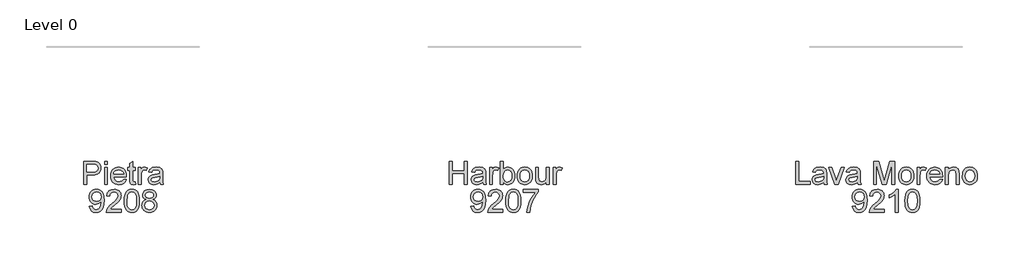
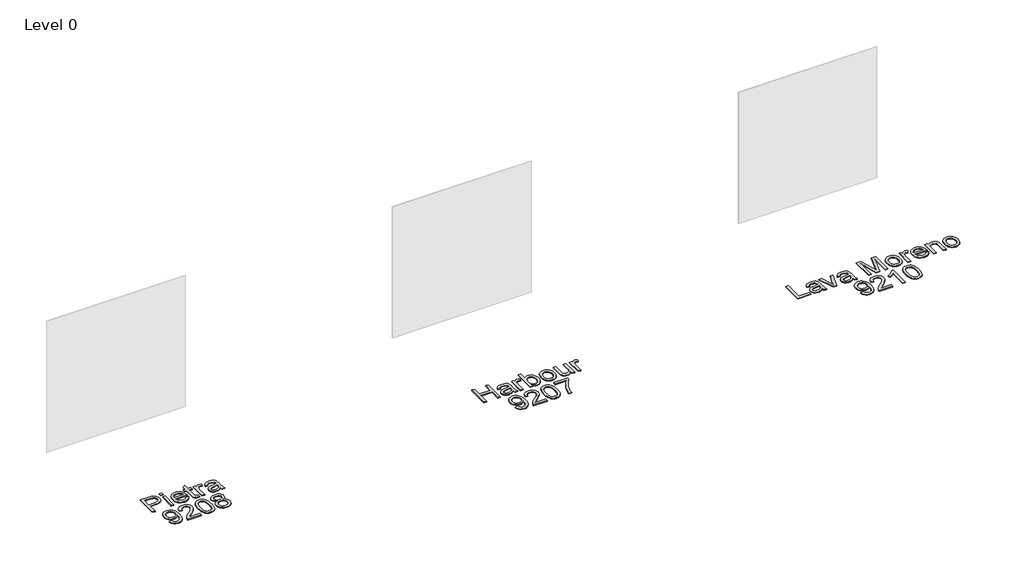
# One storey, part 5 of 8: 3 proxies.
"""IFC4 building model written with IfcOpenShell, lengths in millimetres."""

from ifc_helpers import new_model, si_unit, origin, origin_with_axes, place, context, project, spatial, polyline, outline, extrude, element, save

model = new_model("IFC4")

# Units and contexts
model_context = context("Model", 3, world=origin())
ifc_project = project(units=[si_unit("LENGTHUNIT", "METRE", prefix="MILLI")], contexts=[model_context])

# Site, building, storey
site = spatial("IfcSite", under=ifc_project)
building = spatial("IfcBuilding", under=site)
storey = spatial("IfcBuildingStorey", under=building, Name="Level 0", Elevation=0.0)

# Proxies
placement = place(None, origin())
element("IfcBuildingElementProxy", 1, Name="300mm Arial", ObjectType="300mm Arial", at=placement, inside=storey, context=model_context, shape_type="SweptSolid", body=[
    extrude(outline(polyline([(9367.4106696, -12002.860494), (9367.4106696, -11701.4915635), (9405.0817859, -11701.4915635), (9405.0817859, -11965.1893777), (9555.7662511, -11965.1893777), (9555.7662511, -12002.860494), (9367.4106696, -12002.860494)])), origin_with_axes(), (0.0, 0.0, 1.0), 10.0),
    extrude(outline(polyline([(9734.7040536, -11974.6071568), (9716.705427, -11990.0398064), (9698.1733715, -12000.1381672), (9678.6848228, -12005.7115794), (9657.8167166, -12007.5693835), (9626.3352148, -12003.0996173), (9603.1126639, -11989.6903186), (9588.7928572, -11969.3280501), (9584.0195883, -11943.9993748), (9585.8222101, -11928.3827841), (9591.2300755, -11914.2009331), (9599.5717997, -11902.0608273), (9610.1759982, -11892.5694718), (9636.5531373, -11880.2086368), (9669.147482, -11874.5432541), (9707.6647269, -11868.5835657), (9734.4833244, -11861.5938078), (9734.7040536, -11853.2060983), (9732.1104855, -11836.3938912), (9724.3297813, -11825.3942195), (9706.9289629, -11817.2272392), (9682.6855395, -11814.5049125), (9660.2447377, -11816.3167313), (9644.5729648, -11821.7521878), (9633.8859928, -11831.8045633), (9626.3995942, -11847.4671392), (9588.7284779, -11842.7582497), (9595.2675804, -11822.156858), (9605.0256503, -11805.9700502), (9618.9131956, -11793.590821), (9637.8407242, -11784.4121652), (9660.9896988, -11778.7283884), (9687.5415818, -11776.8337961), (9713.0082129, -11778.5076592), (9733.1957374, -11783.5292485), (9748.4168549, -11791.0800264), (9758.9842653, -11800.3414556), (9765.9924173, -11811.7917827), (9770.5357599, -11825.9092543), (9772.3751699, -11858.8714811), (9772.3751699, -11905.7396473), (9774.2881563, -11971.1858542), (9781.792949, -12002.860494), (9744.1218326, -12002.860494), (9734.7040536, -11974.6071568)]), holes=[polyline([(9734.7040536, -11899.2649241), (9673.929948, -11910.8164188), (9641.5195442, -11916.9232599), (9626.8410526, -11926.8560738), (9621.6907047, -11941.3506244), (9624.4958049, -11952.5526311), (9632.9111055, -11961.7312869), (9646.7526656, -11967.8565221), (9665.8365441, -11969.8982672), (9686.0700538, -11967.64499), (9703.9491188, -11960.8851583), (9718.4436694, -11950.9247533), (9728.5236361, -11939.069756), (9732.9934023, -11926.8560738), (9734.4833244, -11909.933502), (9734.7040536, -11899.2649241)])]), origin_with_axes(), (0.0, 0.0, 1.0), 10.0),
    extrude(outline(polyline([(9878.4723373, -12002.860494), (9800.6285071, -11781.5426857), (9840.5069154, -11781.5426857), (9887.6693872, -11914.1273567), (9901.8696322, -11958.7146546), (9915.7755716, -11916.6289543), (9963.232349, -11781.5426857), (10003.1107573, -11781.5426857), (9926.2234203, -12002.860494), (9878.4723373, -12002.860494)])), origin_with_axes(), (0.0, 0.0, 1.0), 10.0),
    extrude(outline(polyline([(10177.3396702, -11974.6071568), (10159.3410436, -11990.0398064), (10140.808988, -12000.1381672), (10121.3204394, -12005.7115794), (10100.4523332, -12007.5693835), (10068.9708314, -12003.0996173), (10045.7482805, -11989.6903186), (10031.4284738, -11969.3280501), (10026.6552049, -11943.9993748), (10028.4578267, -11928.3827841), (10033.8656921, -11914.2009331), (10042.2074163, -11902.0608273), (10052.8116148, -11892.5694718), (10079.1887539, -11880.2086368), (10111.7830986, -11874.5432541), (10150.3003435, -11868.5835657), (10177.118941, -11861.5938078), (10177.3396702, -11853.2060983), (10174.7461021, -11836.3938912), (10166.9653979, -11825.3942195), (10149.5645795, -11817.2272392), (10125.3211561, -11814.5049125), (10102.8803543, -11816.3167313), (10087.2085814, -11821.7521878), (10076.5216094, -11831.8045633), (10069.0352108, -11847.4671392), (10031.3640945, -11842.7582497), (10037.9031969, -11822.156858), (10047.6612669, -11805.9700502), (10061.5488122, -11793.590821), (10080.4763408, -11784.4121652), (10103.6253154, -11778.7283884), (10130.1771984, -11776.8337961), (10155.6438295, -11778.5076592), (10175.831354, -11783.5292485), (10191.0524715, -11791.0800264), (10201.6198819, -11800.3414556), (10208.6280339, -11811.7917827), (10213.1713765, -11825.9092543), (10215.0107865, -11858.8714811), (10215.0107865, -11905.7396473), (10216.9237729, -11971.1858542), (10224.4285656, -12002.860494), (10186.7574492, -12002.860494), (10177.3396702, -11974.6071568)]), holes=[polyline([(10177.3396702, -11899.2649241), (10116.5655646, -11910.8164188), (10084.1551608, -11916.9232599), (10069.4766692, -11926.8560738), (10064.3263213, -11941.3506244), (10067.1314215, -11952.5526311), (10075.5467221, -11961.7312869), (10089.3882822, -11967.8565221), (10108.4721607, -11969.8982672), (10128.7056704, -11967.64499), (10146.5847354, -11960.8851583), (10161.079286, -11950.9247533), (10171.1592527, -11939.069756), (10175.6290189, -11926.8560738), (10177.118941, -11909.933502), (10177.3396702, -11899.2649241)])]), origin_with_axes(), (0.0, 0.0, 1.0), 10.0),
    extrude(outline(polyline([(10389.2396994, -12002.860494), (10389.2396994, -11701.4915635), (10454.0605069, -11701.4915635), (10515.7175293, -11913.9066275), (10528.1519408, -11958.2731962), (10541.6164218, -11910.2278076), (10602.2433746, -11701.4915635), (10667.0641821, -11701.4915635), (10667.0641821, -12002.860494), (10629.3930658, -12002.860494), (10629.3930658, -11739.1626798), (10553.6829512, -12002.860494), (10502.6209303, -12002.860494), (10426.9108157, -11739.1626798), (10426.9108157, -12002.860494), (10389.2396994, -12002.860494)])), origin_with_axes(), (0.0, 0.0, 1.0), 10.0),
    extrude(outline(polyline([(10718.8619671, -11892.2015898), (10720.8991136, -11863.5389839), (10727.0105533, -11838.8403064), (10737.196286, -11818.1055575), (10751.4563118, -11801.334737), (10765.8129067, -11790.6155754), (10781.6594236, -11782.9590314), (10798.9958627, -11778.3651049), (10817.8222238, -11776.8337961), (10838.6052572, -11778.698498), (10857.3971294, -11784.2926036), (10874.1978403, -11793.6161129), (10889.0073898, -11806.669026), (10901.0946126, -11823.0098843), (10909.7283432, -11842.1972296), (10914.9085816, -11864.2310619), (10916.6353277, -11889.1113811), (10913.5819071, -11927.1687735), (10904.4216454, -11956.1394806), (10889.4212571, -11977.8353213), (10868.8474565, -11994.0681143), (10844.410895, -12004.1940662), (10817.8222238, -12007.5693835), (10796.7356877, -12005.7115794), (10777.7690715, -12000.1381672), (10760.9223754, -11990.8491468), (10746.1955993, -11977.8445183), (10734.2371352, -11961.3450108), (10725.6953751, -11941.5713536), (10720.5703191, -11918.5235466), (10718.8619671, -11892.2015898)]), holes=[polyline([(10756.5330834, -11892.1280134), (10760.892485, -11926.2214773), (10773.9706899, -11950.5108861), (10793.6523767, -11965.0514219), (10817.8222238, -11969.8982672), (10841.8817063, -11965.0238308), (10861.5266048, -11950.4005215), (10874.6048097, -11925.789216), (10878.9642114, -11890.950791), (10874.5772186, -11857.8506085), (10861.4162402, -11833.8922936), (10841.7437505, -11819.3517577), (10817.8222238, -11814.5049125), (10793.6523767, -11819.3333636), (10773.9706899, -11833.8187172), (10760.892485, -11858.0529436), (10756.5330834, -11892.1280134)])]), origin_with_axes(), (0.0, 0.0, 1.0), 10.0),
    extrude(outline(polyline([(10959.0153335, -12002.860494), (10959.0153335, -11781.5426857), (10991.9775603, -11781.5426857), (10991.9775603, -11814.2841833), (11004.1544543, -11795.3014723), (11015.3748552, -11784.1178596), (11026.6320442, -11778.654812), (11038.9193029, -11776.8337961), (11057.6812846, -11779.7400639), (11076.737572, -11788.4588672), (11064.1560077, -11822.2304343), (11050.9122559, -11816.4362929), (11037.6685041, -11814.5049125), (11026.4205121, -11816.3627165), (11016.3681366, -11821.9361288), (11008.2471415, -11830.8020848), (11002.7932909, -11842.5375205), (10998.2131601, -11863.5803706), (10996.6864498, -11886.5362071), (10996.6864498, -12002.860494), (10959.0153335, -12002.860494)])), origin_with_axes(), (0.0, 0.0, 1.0), 10.0),
    extrude(outline(polyline([(11255.233916, -11936.9360404), (11292.1692684, -11941.64493), (11278.8611372, -11969.4752029), (11257.625149, -11990.2789297), (11228.9395504, -12003.2467701), (11193.2825881, -12007.5693835), (11169.9082858, -12005.7046817), (11149.0815663, -12000.1105761), (11130.8024297, -11990.7870668), (11115.0708759, -11977.7341537), (11102.4203338, -11961.3151204), (11093.3842323, -11941.8932503), (11087.9625714, -11919.4685435), (11086.1553511, -11894.0409998), (11087.9809655, -11867.7512327), (11093.4578087, -11844.5792656), (11102.5858807, -11824.5250983), (11115.3651815, -11807.5887309), (11131.0553486, -11794.133447), (11148.9160194, -11784.5225298), (11168.9471941, -11778.7559796), (11191.1488725, -11776.8337961), (11212.6354803, -11778.751381), (11232.0665474, -11784.5041357), (11249.4420739, -11794.0920602), (11264.7620597, -11807.5151545), (11277.2677483, -11824.4147337), (11286.200383, -11844.4321128), (11291.5599638, -11867.5672917), (11293.3464907, -11893.8202706), (11293.1257615, -11903.9738137), (11123.8264674, -11903.9738137), (11130.3471757, -11932.1719686), (11145.4947169, -11952.902119), (11167.3561044, -11965.6492302), (11194.018352, -11969.8982672), (11214.0679208, -11967.9300985), (11230.9537044, -11962.0255925), (11244.6757028, -11951.8168672), (11255.233916, -11936.9360404)]), holes=[polyline([(11123.8264674, -11866.3026974), (11255.6753744, -11866.3026974), (11250.5802088, -11846.4002814), (11240.5922126, -11832.1632482), (11218.6296575, -11818.9194964), (11191.0017197, -11814.5049125), (11165.608665, -11818.0273826), (11144.6118001, -11828.5947929), (11130.0160819, -11845.0667092), (11123.8264674, -11866.3026974)])]), origin_with_axes(), (0.0, 0.0, 1.0), 10.0),
    extrude(outline(polyline([(11331.017607, -12002.860494), (11331.017607, -11781.5426857), (11368.6887234, -11781.5426857), (11368.6887234, -11812.4447733), (11381.7761253, -11796.8649708), (11397.4938836, -11785.7365404), (11415.8419981, -11779.0594822), (11436.8204689, -11776.8337961), (11455.3893126, -11778.6272209), (11472.3946578, -11784.0074951), (11486.5765087, -11792.303234), (11496.6748695, -11802.8430532), (11507.9688467, -11830.5445674), (11509.9554095, -11866.964885), (11509.9554095, -12002.860494), (11472.2842932, -12002.860494), (11472.2842932, -11872.0416565), (11467.9432856, -11838.7115477), (11461.9376121, -11828.7879309), (11452.6026065, -11821.0900002), (11440.6372446, -11816.1511844), (11426.7405022, -11814.5049125), (11404.6767795, -11818.2021265), (11385.8688125, -11829.2937687), (11378.3525235, -11838.3482643), (11372.9837456, -11850.7228949), (11368.6887234, -11885.4325611), (11368.6887234, -12002.860494), (11331.017607, -12002.860494)])), origin_with_axes(), (0.0, 0.0, 1.0), 10.0),
    extrude(outline(polyline([(11552.3354153, -11892.2015898), (11554.3725619, -11863.5389839), (11560.4840015, -11838.8403064), (11570.6697343, -11818.1055575), (11584.9297601, -11801.334737), (11599.286355, -11790.6155754), (11615.1328719, -11782.9590314), (11632.4693109, -11778.3651049), (11651.295672, -11776.8337961), (11672.0787055, -11778.698498), (11690.8705777, -11784.2926036), (11707.6712885, -11793.6161129), (11722.4808381, -11806.669026), (11734.5680609, -11823.0098843), (11743.2017915, -11842.1972296), (11748.3820298, -11864.2310619), (11750.1087759, -11889.1113811), (11747.0553554, -11927.1687735), (11737.8950937, -11956.1394806), (11722.8947054, -11977.8353213), (11702.3209048, -11994.0681143), (11677.8843432, -12004.1940662), (11651.295672, -12007.5693835), (11630.2091359, -12005.7115794), (11611.2425198, -12000.1381672), (11594.3958237, -11990.8491468), (11579.6690476, -11977.8445183), (11567.7105835, -11961.3450108), (11559.1688234, -11941.5713536), (11554.0437674, -11918.5235466), (11552.3354153, -11892.2015898)]), holes=[polyline([(11590.0065316, -11892.1280134), (11594.3659333, -11926.2214773), (11607.4441382, -11950.5108861), (11627.125825, -11965.0514219), (11651.295672, -11969.8982672), (11675.3551545, -11965.0238308), (11695.0000531, -11950.4005215), (11708.078258, -11925.789216), (11712.4376596, -11890.950791), (11708.0506669, -11857.8506085), (11694.8896885, -11833.8922936), (11675.2171988, -11819.3517577), (11651.295672, -11814.5049125), (11627.125825, -11819.3333636), (11607.4441382, -11833.8187172), (11594.3659333, -11858.0529436), (11590.0065316, -11892.1280134)])]), origin_with_axes(), (0.0, 0.0, 1.0), 10.0),
    extrude(outline(polyline([(10111.4152166, -12293.4427149), (10149.0863329, -12288.7338254), (10155.5242679, -12310.1169663), (10166.0089047, -12324.6758963), (10180.2827261, -12333.0360146), (10198.0882147, -12335.8227207), (10214.0634903, -12334.029296), (10228.5856321, -12328.6490218), (10240.6521615, -12320.2705094), (10249.2606002, -12309.4823699), (10261.5846471, -12276.7408723), (10267.0293006, -12233.0364913), (10266.8085714, -12225.6788514), (10253.7579576, -12241.6081418), (10236.679036, -12254.2264942), (10216.8042112, -12262.4486568), (10195.3658879, -12265.1893777), (10177.4707281, -12263.5155146), (10161.0149066, -12258.4939254), (10145.9984234, -12250.12461), (10132.4212786, -12238.4075684), (10121.1709873, -12223.9544045), (10113.135065, -12207.3767221), (10108.3135116, -12188.6745212), (10106.7063271, -12167.8478018), (10108.3916865, -12146.326705), (10113.4477647, -12127.0129003), (10121.8745616, -12109.9063875), (10133.6720773, -12095.0071667), (10148.0079788, -12082.9360387), (10164.0499331, -12074.3138045), (10181.7979401, -12069.1404639), (10201.2519999, -12067.4160171), (10229.3489872, -12071.3523544), (10254.925983, -12083.1613665), (10276.318321, -12102.254442), (10291.8613353, -12128.0429699), (10301.3250996, -12163.6907352), (10304.4796877, -12212.3615232), (10301.3342966, -12263.96617), (10291.8981235, -12303.8537754), (10276.2539416, -12333.8269609), (10254.4845246, -12355.6883485), (10227.5279714, -12369.0424649), (10196.3223811, -12373.4938371), (10164.1143124, -12368.2423216), (10138.4177551, -12352.4877751), (10120.4467196, -12327.2234791), (10111.4152166, -12293.4427149)]), holes=[polyline([(10266.8085714, -12166.964885), (10262.7434754, -12141.4338745), (10250.5481872, -12121.788976), (10231.6206586, -12109.262594), (10207.358841, -12105.0871334), (10182.1957125, -12109.5844908), (10162.0357792, -12123.0765629), (10148.7920273, -12143.7239399), (10144.3774434, -12169.6872117), (10148.552904, -12192.964945), (10161.079286, -12211.4418182), (10180.7425786, -12223.4991506), (10206.3287714, -12227.5182614), (10230.3974509, -12223.4991506), (10249.775635, -12211.4418182), (10262.5503373, -12192.2843633), (10266.8085714, -12166.964885)])]), origin_with_axes(), (0.0, 0.0, 1.0), 10.0),
    extrude(outline(polyline([(10530.5063855, -12331.1138312), (10530.5063855, -12368.7849475), (10332.7330249, -12368.7849475), (10336.7797269, -12342.8124787), (10346.0687473, -12322.5145896), (10359.661987, -12302.8237058), (10379.3252796, -12282.213117), (10406.8244588, -12259.156113), (10447.4754192, -12223.0484951), (10471.8659955, -12196.3954446), (10484.0612836, -12174.7639833), (10488.1263797, -12153.7211331), (10484.2912099, -12134.8579838), (10472.7857005, -12119.1770138), (10455.0997736, -12108.6096035), (10432.7233512, -12105.0871334), (10409.2248888, -12108.52683), (10390.9687448, -12118.84592), (10379.1873239, -12135.2350629), (10375.1130308, -12156.8849183), (10337.4419145, -12152.1760288), (10346.574585, -12115.7373171), (10355.1209436, -12101.2013798), (10366.3206511, -12089.1210548), (10379.9161901, -12079.6251008), (10395.6500432, -12072.8422765), (10433.5326916, -12067.4160171), (10453.7225154, -12068.9243332), (10471.6912516, -12073.4492818), (10487.4389002, -12080.9908627), (10500.9654613, -12091.549076), (10511.8294765, -12104.3421723), (10519.5894873, -12118.5884026), (10524.2454938, -12134.2877667), (10525.797496, -12151.4402648), (10524.1236329, -12169.4572855), (10519.1020437, -12187.1616065), (10510.1901024, -12205.1694302), (10496.845183, -12224.0969588), (10475.5724066, -12246.6941104), (10442.8768943, -12275.7108027), (10399.5403953, -12311.9471793), (10382.5442471, -12331.1138312), (10530.5063855, -12331.1138312)])), origin_with_axes(), (0.0, 0.0, 1.0), 10.0),
    extrude(outline(polyline([(10709.444188, -12368.7849475), (10671.7730717, -12368.7849475), (10671.7730717, -12133.9290818), (10636.0885182, -12159.3497277), (10596.4308391, -12178.3692268), (10596.4308391, -12142.7582497), (10626.0177485, -12126.6634124), (10651.6499266, -12107.5151545), (10671.8558451, -12087.1528861), (10685.1639763, -12067.4160171), (10709.444188, -12067.4160171), (10709.444188, -12368.7849475)])), origin_with_axes(), (0.0, 0.0, 1.0), 10.0),
    extrude(outline(polyline([(10798.9130892, -12220.5285035), (10801.6814012, -12172.2899768), (10809.9863373, -12133.8187172), (10823.7451239, -12104.5261133), (10842.8749876, -12083.8235541), (10867.5138843, -12071.5179013), (10897.7997695, -12067.4160171), (10921.0131234, -12069.8440382), (10941.7984561, -12077.1281017), (10959.1808804, -12088.983099), (10972.1855089, -12105.1239216), (10982.0079582, -12125.4126136), (10989.8438447, -12149.7112194), (10994.9757986, -12180.5673217), (10996.6864498, -12220.5285035), (10993.945729, -12268.4911186), (10985.7235664, -12306.8704077), (10972.0475532, -12336.1906027), (10952.9452806, -12356.9759355), (10928.2512017, -12369.3643617), (10897.7997695, -12373.4938371), (10877.051225, -12371.7004123), (10858.6571252, -12366.3201381), (10842.6174702, -12357.3530145), (10828.93226, -12344.7990414), (10815.7988728, -12322.1053209), (10806.4178819, -12293.828991), (10800.7892874, -12259.9700519), (10798.9130892, -12220.5285035)]), holes=[polyline([(10836.5842055, -12220.4549271), (10840.9987895, -12279.7115194), (10846.5170194, -12299.9795181), (10854.2425413, -12314.0073184), (10873.9610162, -12330.3688702), (10897.7997695, -12335.8227207), (10921.6385228, -12330.3504761), (10941.3569978, -12313.933742), (10949.0825197, -12299.8829491), (10954.6007496, -12279.6195489), (10959.0153335, -12220.4549271), (10954.7479024, -12162.5319069), (10949.4136134, -12142.3305869), (10941.9456089, -12127.9693935), (10922.2639222, -12110.8076984), (10897.3583111, -12105.0871334), (10873.7770752, -12110.1271167), (10854.8311525, -12125.2470667), (10846.8481132, -12140.8820515), (10841.1459423, -12161.9616898), (10836.5842055, -12220.4549271)])]), origin_with_axes(), (0.0, 0.0, 1.0), 10.0),
])
element("IfcBuildingElementProxy", 2, Name="300mm Arial", ObjectType="300mm Arial", at=placement, inside=storey, context=model_context, shape_type="SweptSolid", body=[
    extrude(outline(polyline([(36.072984, -12002.860494), (36.072984, -11701.4915635), (147.7619578, -11701.4915635), (192.790714, -11704.3610431), (212.8678739, -11709.7229232), (229.3949725, -11718.4509235), (242.7031037, -11730.9405172), (253.1233612, -11747.5871775), (259.8556017, -11767.222879), (262.0996819, -11788.6795964), (260.5844679, -11807.1794622), (256.038826, -11824.198603), (248.4627561, -11839.7370188), (237.8562584, -11853.7947095), (223.2950292, -11865.4473717), (203.854765, -11873.7707019), (179.5354658, -11878.7647), (150.3371317, -11880.429366), (73.7441003, -11880.429366), (73.7441003, -12002.860494), (36.072984, -12002.860494)]), holes=[polyline([(73.7441003, -11842.7582497), (152.5444237, -11842.7582497), (185.9481089, -11839.3001589), (208.0210286, -11828.9258867), (220.3266813, -11812.2792264), (224.4285656, -11790.0039716), (222.0097414, -11773.0813998), (214.7532691, -11758.8075784), (203.5604594, -11748.0654241), (189.3326232, -11741.7378538), (151.6615069, -11739.1626798), (73.7441003, -11739.1626798), (73.7441003, -11842.7582497)])]), origin_with_axes(), (0.0, 0.0, 1.0), 10.0),
    extrude(outline(polyline([(309.1885772, -11739.1626798), (309.1885772, -11701.4915635), (346.8596935, -11701.4915635), (346.8596935, -11739.1626798), (309.1885772, -11739.1626798)])), origin_with_axes(), (0.0, 0.0, 1.0), 10.0),
    extrude(outline(polyline([(309.1885772, -12002.860494), (309.1885772, -11781.5426857), (346.8596935, -11781.5426857), (346.8596935, -12002.860494), (309.1885772, -12002.860494)])), origin_with_axes(), (0.0, 0.0, 1.0), 10.0),
    extrude(outline(polyline([(558.3182644, -11936.9360404), (595.2536167, -11941.64493), (581.9454855, -11969.4752029), (560.7094973, -11990.2789297), (532.0238988, -12003.2467701), (496.3669364, -12007.5693835), (472.9926341, -12005.7046817), (452.1659147, -12000.1105761), (433.886778, -11990.7870668), (418.1552242, -11977.7341537), (405.5046821, -11961.3151204), (396.4685806, -11941.8932503), (391.0469197, -11919.4685435), (389.2396994, -11894.0409998), (391.0653138, -11867.7512327), (396.542157, -11844.5792656), (405.670229, -11824.5250983), (418.4495298, -11807.5887309), (434.1396969, -11794.133447), (452.0003678, -11784.5225298), (472.0315424, -11778.7559796), (494.2332208, -11776.8337961), (515.7198286, -11778.751381), (535.1508957, -11784.5041357), (552.5264222, -11794.0920602), (567.8464081, -11807.5151545), (580.3520966, -11824.4147337), (589.2847313, -11844.4321128), (594.6443121, -11867.5672917), (596.4308391, -11893.8202706), (596.2101099, -11903.9738137), (426.9108157, -11903.9738137), (433.4315241, -11932.1719686), (448.5790652, -11952.902119), (470.4404528, -11965.6492302), (497.1027004, -11969.8982672), (517.1522691, -11967.9300985), (534.0380527, -11962.0255925), (547.7600511, -11951.8168672), (558.3182644, -11936.9360404)]), holes=[polyline([(426.9108157, -11866.3026974), (558.7597228, -11866.3026974), (553.6645571, -11846.4002814), (543.676561, -11832.1632482), (521.7140059, -11818.9194964), (494.086068, -11814.5049125), (468.6930133, -11818.0273826), (447.6961484, -11828.5947929), (433.1004303, -11845.0667092), (426.9108157, -11866.3026974)])]), origin_with_axes(), (0.0, 0.0, 1.0), 10.0),
    extrude(outline(polyline([(714.1530775, -11971.4433716), (718.8619671, -12003.96414), (690.6822062, -12007.5693835), (672.6008062, -12006.005885), (659.1179311, -12001.3153896), (649.5897874, -11994.0865084), (643.3725817, -11984.9078526), (639.9512791, -11969.1441091), (638.8108449, -11942.1599648), (638.8108449, -11819.213802), (610.5575077, -11819.213802), (610.5575077, -11781.5426857), (638.8108449, -11781.5426857), (638.8108449, -11727.758338), (676.4819612, -11705.6118419), (676.4819612, -11781.5426857), (714.1530775, -11781.5426857), (714.1530775, -11819.213802), (676.4819612, -11819.213802), (676.4819612, -11941.0563188), (678.468524, -11960.4804881), (684.9064589, -11967.3598814), (697.7455405, -11969.8982672), (714.1530775, -11971.4433716)])), origin_with_axes(), (0.0, 0.0, 1.0), 10.0),
    extrude(outline(polyline([(751.8241938, -12002.860494), (751.8241938, -11781.5426857), (784.7864206, -11781.5426857), (784.7864206, -11814.2841833), (796.9633146, -11795.3014723), (808.1837155, -11784.1178596), (819.4409046, -11778.654812), (831.7281632, -11776.8337961), (850.4901449, -11779.7400639), (869.5464323, -11788.4588672), (856.9648681, -11822.2304343), (843.7211162, -11816.4362929), (830.4773644, -11814.5049125), (819.2293724, -11816.3627165), (809.1769969, -11821.9361288), (801.0560018, -11830.8020848), (795.6021513, -11842.5375205), (791.0220204, -11863.5803706), (789.4953101, -11886.5362071), (789.4953101, -12002.860494), (751.8241938, -12002.860494)])), origin_with_axes(), (0.0, 0.0, 1.0), 10.0),
    extrude(outline(polyline([(1034.3575661, -11974.6071568), (1016.3589395, -11990.0398064), (997.826884, -12000.1381672), (978.3383353, -12005.7115794), (957.4702291, -12007.5693835), (925.9887274, -12003.0996173), (902.7661765, -11989.6903186), (888.4463698, -11969.3280501), (883.6731009, -11943.9993748), (885.4757227, -11928.3827841), (890.883588, -11914.2009331), (899.2253123, -11902.0608273), (909.8295108, -11892.5694718), (936.2066498, -11880.2086368), (968.8009946, -11874.5432541), (1007.3182395, -11868.5835657), (1034.1368369, -11861.5938078), (1034.3575661, -11853.2060983), (1031.7639981, -11836.3938912), (1023.9832939, -11825.3942195), (1006.5824755, -11817.2272392), (982.339052, -11814.5049125), (959.8982503, -11816.3167313), (944.2264773, -11821.7521878), (933.5395054, -11831.8045633), (926.0531068, -11847.4671392), (888.3819904, -11842.7582497), (894.9210929, -11822.156858), (904.6791628, -11805.9700502), (918.5667082, -11793.590821), (937.4942368, -11784.4121652), (960.6432114, -11778.7283884), (987.1950944, -11776.8337961), (1012.6617255, -11778.5076592), (1032.84925, -11783.5292485), (1048.0703675, -11791.0800264), (1058.6377778, -11800.3414556), (1065.6459298, -11811.7917827), (1070.1892725, -11825.9092543), (1072.0286824, -11858.8714811), (1072.0286824, -11905.7396473), (1073.9416688, -11971.1858542), (1081.4464615, -12002.860494), (1043.7753452, -12002.860494), (1034.3575661, -11974.6071568)]), holes=[polyline([(1034.3575661, -11899.2649241), (973.5834605, -11910.8164188), (941.1730568, -11916.9232599), (926.4945651, -11926.8560738), (921.3442172, -11941.3506244), (924.1493174, -11952.5526311), (932.5646181, -11961.7312869), (946.4061781, -11967.8565221), (965.4900566, -11969.8982672), (985.7235664, -11967.64499), (1003.6026313, -11960.8851583), (1018.0971819, -11950.9247533), (1028.1771486, -11939.069756), (1032.6469149, -11926.8560738), (1034.1368369, -11909.933502), (1034.3575661, -11899.2649241)])]), origin_with_axes(), (0.0, 0.0, 1.0), 10.0),
    extrude(outline(polyline([(111.4152166, -12293.4427149), (149.0863329, -12288.7338254), (155.5242679, -12310.1169663), (166.0089047, -12324.6758963), (180.2827261, -12333.0360146), (198.0882147, -12335.8227207), (214.0634903, -12334.029296), (228.5856321, -12328.6490218), (240.6521615, -12320.2705094), (249.2606002, -12309.4823699), (261.5846471, -12276.7408723), (267.0293006, -12233.0364913), (266.8085714, -12225.6788514), (253.7579576, -12241.6081418), (236.679036, -12254.2264942), (216.8042112, -12262.4486568), (195.3658879, -12265.1893777), (177.4707281, -12263.5155146), (161.0149066, -12258.4939254), (145.9984234, -12250.12461), (132.4212786, -12238.4075684), (121.1709873, -12223.9544045), (113.135065, -12207.3767221), (108.3135116, -12188.6745212), (106.7063271, -12167.8478018), (108.3916865, -12146.326705), (113.4477647, -12127.0129003), (121.8745616, -12109.9063875), (133.6720773, -12095.0071667), (148.0079788, -12082.9360387), (164.0499331, -12074.3138045), (181.7979401, -12069.1404639), (201.2519999, -12067.4160171), (229.3489872, -12071.3523544), (254.925983, -12083.1613665), (276.318321, -12102.254442), (291.8613353, -12128.0429699), (301.3250996, -12163.6907352), (304.4796877, -12212.3615232), (301.3342966, -12263.96617), (291.8981235, -12303.8537754), (276.2539416, -12333.8269609), (254.4845246, -12355.6883485), (227.5279714, -12369.0424649), (196.3223811, -12373.4938371), (164.1143124, -12368.2423216), (138.4177551, -12352.4877751), (120.4467196, -12327.2234791), (111.4152166, -12293.4427149)]), holes=[polyline([(266.8085714, -12166.964885), (262.7434754, -12141.4338745), (250.5481872, -12121.788976), (231.6206586, -12109.262594), (207.358841, -12105.0871334), (182.1957125, -12109.5844908), (162.0357792, -12123.0765629), (148.7920273, -12143.7239399), (144.3774434, -12169.6872117), (148.552904, -12192.964945), (161.079286, -12211.4418182), (180.7425786, -12223.4991506), (206.3287714, -12227.5182614), (230.3974509, -12223.4991506), (249.775635, -12211.4418182), (262.5503373, -12192.2843633), (266.8085714, -12166.964885)])]), origin_with_axes(), (0.0, 0.0, 1.0), 10.0),
    extrude(outline(polyline([(530.5063855, -12331.1138312), (530.5063855, -12368.7849475), (332.7330249, -12368.7849475), (336.7797269, -12342.8124787), (346.0687473, -12322.5145896), (359.661987, -12302.8237058), (379.3252796, -12282.213117), (406.8244588, -12259.156113), (447.4754192, -12223.0484951), (471.8659955, -12196.3954446), (484.0612836, -12174.7639833), (488.1263797, -12153.7211331), (484.2912099, -12134.8579838), (472.7857005, -12119.1770138), (455.0997736, -12108.6096035), (432.7233512, -12105.0871334), (409.2248888, -12108.52683), (390.9687448, -12118.84592), (379.1873239, -12135.2350629), (375.1130308, -12156.8849183), (337.4419145, -12152.1760288), (346.574585, -12115.7373171), (355.1209436, -12101.2013798), (366.3206511, -12089.1210548), (379.9161901, -12079.6251008), (395.6500432, -12072.8422765), (433.5326916, -12067.4160171), (453.7225154, -12068.9243332), (471.6912516, -12073.4492818), (487.4389002, -12080.9908627), (500.9654613, -12091.549076), (511.8294765, -12104.3421723), (519.5894873, -12118.5884026), (524.2454938, -12134.2877667), (525.797496, -12151.4402648), (524.1236329, -12169.4572855), (519.1020437, -12187.1616065), (510.1901024, -12205.1694302), (496.845183, -12224.0969588), (475.5724066, -12246.6941104), (442.8768943, -12275.7108027), (399.5403953, -12311.9471793), (382.5442471, -12331.1138312), (530.5063855, -12331.1138312)])), origin_with_axes(), (0.0, 0.0, 1.0), 10.0),
    extrude(outline(polyline([(568.1775018, -12220.5285035), (570.9458139, -12172.2899768), (579.2507499, -12133.8187172), (593.0095365, -12104.5261133), (612.1394003, -12083.8235541), (636.7782969, -12071.5179013), (667.0641821, -12067.4160171), (690.277536, -12069.8440382), (711.0628688, -12077.1281017), (728.445293, -12088.983099), (741.4499216, -12105.1239216), (751.2723708, -12125.4126136), (759.1082573, -12149.7112194), (764.2402112, -12180.5673217), (765.9508625, -12220.5285035), (763.2101416, -12268.4911186), (754.987979, -12306.8704077), (741.3119658, -12336.1906027), (722.2096932, -12356.9759355), (697.5156143, -12369.3643617), (667.0641821, -12373.4938371), (646.3156376, -12371.7004123), (627.9215379, -12366.3201381), (611.8818829, -12357.3530145), (598.1966727, -12344.7990414), (585.0632854, -12322.1053209), (575.6822945, -12293.828991), (570.0537, -12259.9700519), (568.1775018, -12220.5285035)]), holes=[polyline([(605.8486182, -12220.4549271), (610.2632021, -12279.7115194), (615.781432, -12299.9795181), (623.5069539, -12314.0073184), (643.2254289, -12330.3688702), (667.0641821, -12335.8227207), (690.9029354, -12330.3504761), (710.6214104, -12313.933742), (718.3469323, -12299.8829491), (723.8651622, -12279.6195489), (728.2797461, -12220.4549271), (724.012315, -12162.5319069), (718.6780261, -12142.3305869), (711.2100216, -12127.9693935), (691.5283348, -12110.8076984), (666.6227238, -12105.0871334), (643.0414879, -12110.1271167), (624.0955651, -12125.2470667), (616.1125258, -12140.8820515), (610.4103549, -12161.9616898), (605.8486182, -12220.4549271)])]), origin_with_axes(), (0.0, 0.0, 1.0), 10.0),
    extrude(outline(polyline([(853.8010829, -12202.7965913), (833.6319525, -12192.8637774), (819.4776928, -12179.3992964), (811.1175744, -12162.6790597), (808.3308683, -12142.9789789), (809.8483815, -12127.6153071), (814.4009212, -12113.5300252), (821.9884874, -12100.7231332), (832.61108, -12089.1946312), (845.7582628, -12079.6664875), (860.9195995, -12072.8606706), (897.2847347, -12067.4160171), (933.8705992, -12072.9894293), (949.1974828, -12079.9561946), (962.5470007, -12089.709666), (973.3627313, -12101.4634957), (981.0882532, -12114.4313361), (985.7235664, -12128.613187), (987.2686708, -12144.0090485), (984.5187528, -12163.0745329), (976.2689991, -12179.509661), (962.427439, -12192.8913686), (942.9021021, -12202.7965913), (966.0878649, -12214.7435591), (982.9644514, -12232.3375155), (993.2559502, -12254.732332), (996.6864498, -12281.0818799), (994.9849956, -12299.8714528), (989.8806329, -12317.0975272), (981.3733618, -12332.7601031), (969.4631822, -12346.8591806), (954.7754935, -12358.5118428), (937.9356952, -12366.8351729), (918.9437872, -12371.829171), (897.7997695, -12373.4938371), (876.6557519, -12371.8222732), (857.6638439, -12366.8075818), (840.8240455, -12358.4497627), (826.1363569, -12346.748816), (814.2261773, -12332.5508703), (805.7189061, -12316.702054), (800.6145434, -12299.2023674), (798.9130892, -12280.0518103), (802.4815446, -12252.6813898), (813.1869106, -12230.1670117), (830.4773644, -12213.2812282), (853.8010829, -12202.7965913)]), holes=[polyline([(846.0019846, -12144.0826249), (849.3405137, -12160.52695), (859.356101, -12173.6603373), (875.754441, -12182.268776), (898.2412279, -12185.1382555), (920.203783, -12182.2871701), (936.3538026, -12173.7339137), (946.2866165, -12161.0419848), (949.5975544, -12145.774882), (946.1762519, -12129.9283651), (935.9123442, -12116.822569), (919.5415954, -12108.0209923), (897.7997695, -12105.0871334), (875.9199879, -12107.9566129), (859.5768302, -12116.5650516), (849.395696, -12129.1834041), (846.0019846, -12144.0826249)]), polyline([(836.5842055, -12278.7274351), (842.8749876, -12307.0911369), (851.5845939, -12319.2588339), (865.1318484, -12328.317928), (881.3554443, -12333.9465226), (898.0940751, -12335.8227207), (923.7354502, -12331.8771864), (942.9756785, -12320.0405832), (955.0054198, -12302.1155329), (959.0153335, -12279.9046575), (954.8766611, -12257.316703), (942.4606437, -12238.9961796), (922.778957, -12226.8560738), (896.8432763, -12222.8093718), (871.5605862, -12226.8008915), (852.5134959, -12238.7754504), (840.5665281, -12256.7464859), (836.5842055, -12278.7274351)])]), origin_with_axes(), (0.0, 0.0, 1.0), 10.0),
])
element("IfcBuildingElementProxy", 3, Name="300mm Arial", ObjectType="300mm Arial", at=placement, inside=storey, context=model_context, shape_type="SweptSolid", body=[
    extrude(outline(polyline([(4828.8818443, -12002.860494), (4828.8818443, -11701.4915635), (4866.5529606, -11701.4915635), (4866.5529606, -11823.9226915), (5026.6552049, -11823.9226915), (5026.6552049, -11701.4915635), (5064.3263213, -11701.4915635), (5064.3263213, -12002.860494), (5026.6552049, -12002.860494), (5026.6552049, -11861.5938078), (4866.5529606, -11861.5938078), (4866.5529606, -12002.860494), (4828.8818443, -12002.860494)])), origin_with_axes(), (0.0, 0.0, 1.0), 10.0),
    extrude(outline(polyline([(5266.8085714, -11974.6071568), (5248.8099448, -11990.0398064), (5230.2778893, -12000.1381672), (5210.7893406, -12005.7115794), (5189.9212344, -12007.5693835), (5158.4397327, -12003.0996173), (5135.2171817, -11989.6903186), (5120.8973751, -11969.3280501), (5116.1241062, -11943.9993748), (5117.9267279, -11928.3827841), (5123.3345933, -11914.2009331), (5131.6763175, -11902.0608273), (5142.280516, -11892.5694718), (5168.6576551, -11880.2086368), (5201.2519999, -11874.5432541), (5239.7692448, -11868.5835657), (5266.5878422, -11861.5938078), (5266.8085714, -11853.2060983), (5264.2150033, -11836.3938912), (5256.4342991, -11825.3942195), (5239.0334808, -11817.2272392), (5214.7900573, -11814.5049125), (5192.3492556, -11816.3167313), (5176.6774826, -11821.7521878), (5165.9905106, -11831.8045633), (5158.504112, -11847.4671392), (5120.8329957, -11842.7582497), (5127.3720982, -11822.156858), (5137.1301681, -11805.9700502), (5151.0177134, -11793.590821), (5169.9452421, -11784.4121652), (5193.0942166, -11778.7283884), (5219.6460996, -11776.8337961), (5245.1127307, -11778.5076592), (5265.3002552, -11783.5292485), (5280.5213728, -11791.0800264), (5291.0887831, -11800.3414556), (5298.0969351, -11811.7917827), (5302.6402777, -11825.9092543), (5304.4796877, -11858.8714811), (5304.4796877, -11905.7396473), (5306.3926741, -11971.1858542), (5313.8974668, -12002.860494), (5276.2263505, -12002.860494), (5266.8085714, -11974.6071568)]), holes=[polyline([(5266.8085714, -11899.2649241), (5206.0344658, -11910.8164188), (5173.624062, -11916.9232599), (5158.9455704, -11926.8560738), (5153.7952225, -11941.3506244), (5156.6003227, -11952.5526311), (5165.0156233, -11961.7312869), (5178.8571834, -11967.8565221), (5197.9410619, -11969.8982672), (5218.1745716, -11967.64499), (5236.0536366, -11960.8851583), (5250.5481872, -11950.9247533), (5260.6281539, -11939.069756), (5265.0979201, -11926.8560738), (5266.5878422, -11909.933502), (5266.8085714, -11899.2649241)])]), origin_with_axes(), (0.0, 0.0, 1.0), 10.0),
    extrude(outline(polyline([(5356.2774726, -12002.860494), (5356.2774726, -11781.5426857), (5389.2396994, -11781.5426857), (5389.2396994, -11814.2841833), (5401.4165934, -11795.3014723), (5412.6369943, -11784.1178596), (5423.8941833, -11778.654812), (5436.181442, -11776.8337961), (5454.9434237, -11779.7400639), (5473.9997111, -11788.4588672), (5461.4181468, -11822.2304343), (5448.174395, -11816.4362929), (5434.9306432, -11814.5049125), (5423.6826512, -11816.3627165), (5413.6302757, -11821.9361288), (5405.5092806, -11830.8020848), (5400.05543, -11842.5375205), (5395.4752992, -11863.5803706), (5393.9485889, -11886.5362071), (5393.9485889, -12002.860494), (5356.2774726, -12002.860494)])), origin_with_axes(), (0.0, 0.0, 1.0), 10.0),
    extrude(outline(polyline([(5535.2152751, -12002.860494), (5497.5441588, -12002.860494), (5497.5441588, -11701.4915635), (5535.2152751, -11701.4915635), (5535.2152751, -11813.2541137), (5547.6037013, -11797.3202248), (5561.5924141, -11785.9388755), (5577.1814137, -11779.110066), (5594.3706999, -11776.8337961), (5613.7764751, -11778.8847383), (5632.1153926, -11785.0375646), (5648.3389886, -11794.9059992), (5661.3987994, -11808.1037657), (5671.6351159, -11824.5021057), (5679.388229, -11843.9722603), (5684.2718625, -11865.7048891), (5685.8997403, -11888.8906519), (5684.2143809, -11915.64487), (5679.1583027, -11939.1801206), (5670.7315058, -11959.4964038), (5658.9339901, -11976.5937195), (5644.7728325, -11990.1455725), (5629.2551101, -11999.8254675), (5612.3808228, -12005.6334045), (5594.1499707, -12007.5693835), (5576.3950659, -12005.0723845), (5560.654315, -11997.5813874), (5546.9277181, -11985.0963921), (5535.2152751, -11967.6173988), (5535.2152751, -12002.860494)]), holes=[polyline([(5535.2152751, -11890.6564855), (5537.790449, -11922.0736078), (5545.5159709, -11943.3371872), (5554.6440429, -11954.9576597), (5565.25284, -11963.2579972), (5577.3423621, -11968.2381997), (5590.9126091, -11969.8982672), (5612.6544351, -11965.0054367), (5631.2324758, -11950.3269451), (5643.979587, -11925.9547629), (5648.228624, -11891.9808606), (5644.1543309, -11857.5103177), (5631.9314516, -11833.414047), (5613.932825, -11819.2321961), (5592.5312899, -11814.5049125), (5570.789464, -11819.397743), (5552.2114233, -11834.0762346), (5539.4643121, -11858.0069584), (5535.2152751, -11890.6564855)])]), origin_with_axes(), (0.0, 0.0, 1.0), 10.0),
    extrude(outline(polyline([(5718.8619671, -11892.2015898), (5720.8991136, -11863.5389839), (5727.0105533, -11838.8403064), (5737.196286, -11818.1055575), (5751.4563118, -11801.334737), (5765.8129067, -11790.6155754), (5781.6594236, -11782.9590314), (5798.9958627, -11778.3651049), (5817.8222238, -11776.8337961), (5838.6052572, -11778.698498), (5857.3971294, -11784.2926036), (5874.1978403, -11793.6161129), (5889.0073898, -11806.669026), (5901.0946126, -11823.0098843), (5909.7283432, -11842.1972296), (5914.9085816, -11864.2310619), (5916.6353277, -11889.1113811), (5913.5819071, -11927.1687735), (5904.4216454, -11956.1394806), (5889.4212571, -11977.8353213), (5868.8474565, -11994.0681143), (5844.410895, -12004.1940662), (5817.8222238, -12007.5693835), (5796.7356877, -12005.7115794), (5777.7690715, -12000.1381672), (5760.9223754, -11990.8491468), (5746.1955993, -11977.8445183), (5734.2371352, -11961.3450108), (5725.6953751, -11941.5713536), (5720.5703191, -11918.5235466), (5718.8619671, -11892.2015898)]), holes=[polyline([(5756.5330834, -11892.1280134), (5760.892485, -11926.2214773), (5773.9706899, -11950.5108861), (5793.6523767, -11965.0514219), (5817.8222238, -11969.8982672), (5841.8817063, -11965.0238308), (5861.5266048, -11950.4005215), (5874.6048097, -11925.789216), (5878.9642114, -11890.950791), (5874.5772186, -11857.8506085), (5861.4162402, -11833.8922936), (5841.7437505, -11819.3517577), (5817.8222238, -11814.5049125), (5793.6523767, -11819.3333636), (5773.9706899, -11833.8187172), (5760.892485, -11858.0529436), (5756.5330834, -11892.1280134)])]), origin_with_axes(), (0.0, 0.0, 1.0), 10.0),
    extrude(outline(polyline([(6100.2820197, -12002.860494), (6100.2820197, -11964.8214957), (6086.6519917, -11983.5236966), (6070.7778837, -11996.8824116), (6052.6596954, -12004.8976405), (6032.297427, -12007.5693835), (6013.9493125, -12005.6931853), (5996.8703908, -12000.0645908), (5982.5413871, -11991.6033049), (5972.4430263, -11981.2290327), (5961.2226255, -11953.4907302), (5959.0153335, -11918.4683643), (5959.0153335, -11781.5426857), (5996.6864498, -11781.5426857), (5996.6864498, -11900.7364521), (5998.9673182, -11939.1433324), (6004.457957, -11951.9548229), (6013.866539, -11961.6944987), (6026.5676649, -11967.8473251), (6041.9359352, -11969.8982672), (6058.1871224, -11967.8013398), (6073.3898458, -11961.5105577), (6085.9254248, -11951.605335), (6094.1751785, -11938.6650858), (6098.7553094, -11920.9423707), (6100.2820197, -11896.6897502), (6100.2820197, -11781.5426857), (6137.953136, -11781.5426857), (6137.953136, -12002.860494), (6100.2820197, -12002.860494)])), origin_with_axes(), (0.0, 0.0, 1.0), 10.0),
    extrude(outline(polyline([(6189.7509209, -12002.860494), (6189.7509209, -11781.5426857), (6222.7131477, -11781.5426857), (6222.7131477, -11814.2841833), (6234.8900417, -11795.3014723), (6246.1104426, -11784.1178596), (6257.3676316, -11778.654812), (6269.6548902, -11776.8337961), (6288.416872, -11779.7400639), (6307.4731594, -11788.4588672), (6294.8915951, -11822.2304343), (6281.6478433, -11816.4362929), (6268.4040915, -11814.5049125), (6257.1560995, -11816.3627165), (6247.1037239, -11821.9361288), (6238.9827289, -11830.8020848), (6233.5288783, -11842.5375205), (6228.9487475, -11863.5803706), (6227.4220372, -11886.5362071), (6227.4220372, -12002.860494), (6189.7509209, -12002.860494)])), origin_with_axes(), (0.0, 0.0, 1.0), 10.0),
    extrude(outline(polyline([(5111.4152166, -12293.4427149), (5149.0863329, -12288.7338254), (5155.5242679, -12310.1169663), (5166.0089047, -12324.6758963), (5180.2827261, -12333.0360146), (5198.0882147, -12335.8227207), (5214.0634903, -12334.029296), (5228.5856321, -12328.6490218), (5240.6521615, -12320.2705094), (5249.2606002, -12309.4823699), (5261.5846471, -12276.7408723), (5267.0293006, -12233.0364913), (5266.8085714, -12225.6788514), (5253.7579576, -12241.6081418), (5236.679036, -12254.2264942), (5216.8042112, -12262.4486568), (5195.3658879, -12265.1893777), (5177.4707281, -12263.5155146), (5161.0149066, -12258.4939254), (5145.9984234, -12250.12461), (5132.4212786, -12238.4075684), (5121.1709873, -12223.9544045), (5113.135065, -12207.3767221), (5108.3135116, -12188.6745212), (5106.7063271, -12167.8478018), (5108.3916865, -12146.326705), (5113.4477647, -12127.0129003), (5121.8745616, -12109.9063875), (5133.6720773, -12095.0071667), (5148.0079788, -12082.9360387), (5164.0499331, -12074.3138045), (5181.7979401, -12069.1404639), (5201.2519999, -12067.4160171), (5229.3489872, -12071.3523544), (5254.925983, -12083.1613665), (5276.318321, -12102.254442), (5291.8613353, -12128.0429699), (5301.3250996, -12163.6907352), (5304.4796877, -12212.3615232), (5301.3342966, -12263.96617), (5291.8981235, -12303.8537754), (5276.2539416, -12333.8269609), (5254.4845246, -12355.6883485), (5227.5279714, -12369.0424649), (5196.3223811, -12373.4938371), (5164.1143124, -12368.2423216), (5138.4177551, -12352.4877751), (5120.4467196, -12327.2234791), (5111.4152166, -12293.4427149)]), holes=[polyline([(5266.8085714, -12166.964885), (5262.7434754, -12141.4338745), (5250.5481872, -12121.788976), (5231.6206586, -12109.262594), (5207.358841, -12105.0871334), (5182.1957125, -12109.5844908), (5162.0357792, -12123.0765629), (5148.7920273, -12143.7239399), (5144.3774434, -12169.6872117), (5148.552904, -12192.964945), (5161.079286, -12211.4418182), (5180.7425786, -12223.4991506), (5206.3287714, -12227.5182614), (5230.3974509, -12223.4991506), (5249.775635, -12211.4418182), (5262.5503373, -12192.2843633), (5266.8085714, -12166.964885)])]), origin_with_axes(), (0.0, 0.0, 1.0), 10.0),
    extrude(outline(polyline([(5530.5063855, -12331.1138312), (5530.5063855, -12368.7849475), (5332.7330249, -12368.7849475), (5336.7797269, -12342.8124787), (5346.0687473, -12322.5145896), (5359.661987, -12302.8237058), (5379.3252796, -12282.213117), (5406.8244588, -12259.156113), (5447.4754192, -12223.0484951), (5471.8659955, -12196.3954446), (5484.0612836, -12174.7639833), (5488.1263797, -12153.7211331), (5484.2912099, -12134.8579838), (5472.7857005, -12119.1770138), (5455.0997736, -12108.6096035), (5432.7233512, -12105.0871334), (5409.2248888, -12108.52683), (5390.9687448, -12118.84592), (5379.1873239, -12135.2350629), (5375.1130308, -12156.8849183), (5337.4419145, -12152.1760288), (5346.574585, -12115.7373171), (5355.1209436, -12101.2013798), (5366.3206511, -12089.1210548), (5379.9161901, -12079.6251008), (5395.6500432, -12072.8422765), (5433.5326916, -12067.4160171), (5453.7225154, -12068.9243332), (5471.6912516, -12073.4492818), (5487.4389002, -12080.9908627), (5500.9654613, -12091.549076), (5511.8294765, -12104.3421723), (5519.5894873, -12118.5884026), (5524.2454938, -12134.2877667), (5525.797496, -12151.4402648), (5524.1236329, -12169.4572855), (5519.1020437, -12187.1616065), (5510.1901024, -12205.1694302), (5496.845183, -12224.0969588), (5475.5724066, -12246.6941104), (5442.8768943, -12275.7108027), (5399.5403953, -12311.9471793), (5382.5442471, -12331.1138312), (5530.5063855, -12331.1138312)])), origin_with_axes(), (0.0, 0.0, 1.0), 10.0),
    extrude(outline(polyline([(5568.1775018, -12220.5285035), (5570.9458139, -12172.2899768), (5579.2507499, -12133.8187172), (5593.0095365, -12104.5261133), (5612.1394003, -12083.8235541), (5636.7782969, -12071.5179013), (5667.0641821, -12067.4160171), (5690.277536, -12069.8440382), (5711.0628688, -12077.1281017), (5728.445293, -12088.983099), (5741.4499216, -12105.1239216), (5751.2723708, -12125.4126136), (5759.1082573, -12149.7112194), (5764.2402112, -12180.5673217), (5765.9508625, -12220.5285035), (5763.2101416, -12268.4911186), (5754.987979, -12306.8704077), (5741.3119658, -12336.1906027), (5722.2096932, -12356.9759355), (5697.5156143, -12369.3643617), (5667.0641821, -12373.4938371), (5646.3156376, -12371.7004123), (5627.9215379, -12366.3201381), (5611.8818829, -12357.3530145), (5598.1966727, -12344.7990414), (5585.0632854, -12322.1053209), (5575.6822945, -12293.828991), (5570.0537, -12259.9700519), (5568.1775018, -12220.5285035)]), holes=[polyline([(5605.8486182, -12220.4549271), (5610.2632021, -12279.7115194), (5615.781432, -12299.9795181), (5623.5069539, -12314.0073184), (5643.2254289, -12330.3688702), (5667.0641821, -12335.8227207), (5690.9029354, -12330.3504761), (5710.6214104, -12313.933742), (5718.3469323, -12299.8829491), (5723.8651622, -12279.6195489), (5728.2797461, -12220.4549271), (5724.012315, -12162.5319069), (5718.6780261, -12142.3305869), (5711.2100216, -12127.9693935), (5691.5283348, -12110.8076984), (5666.6227238, -12105.0871334), (5643.0414879, -12110.1271167), (5624.0955651, -12125.2470667), (5616.1125258, -12140.8820515), (5610.4103549, -12161.9616898), (5605.8486182, -12220.4549271)])]), origin_with_axes(), (0.0, 0.0, 1.0), 10.0),
    extrude(outline(polyline([(5798.9130892, -12109.7960229), (5798.9130892, -12072.1249066), (5996.6864498, -12072.1249066), (5996.6864498, -12102.5855358), (5968.4974919, -12138.2608923), (5940.5844456, -12183.6299393), (5915.963943, -12234.5540045), (5897.6526167, -12286.8944154), (5888.676296, -12326.0554538), (5883.6731009, -12368.7849475), (5846.0019846, -12368.7849475), (5850.0762777, -12329.9550029), (5860.9747818, -12283.8042066), (5878.4031913, -12234.8850983), (5902.0672007, -12187.7502177), (5929.6951385, -12145.1402856), (5959.0153335, -12109.7960229), (5798.9130892, -12109.7960229)])), origin_with_axes(), (0.0, 0.0, 1.0), 10.0),
])

save(model, "model.ifc")
